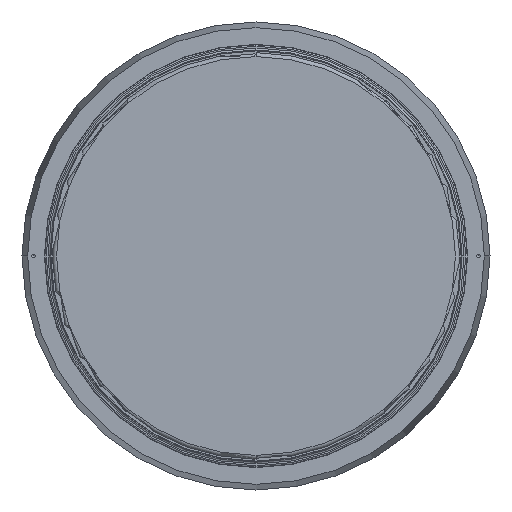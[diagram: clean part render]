
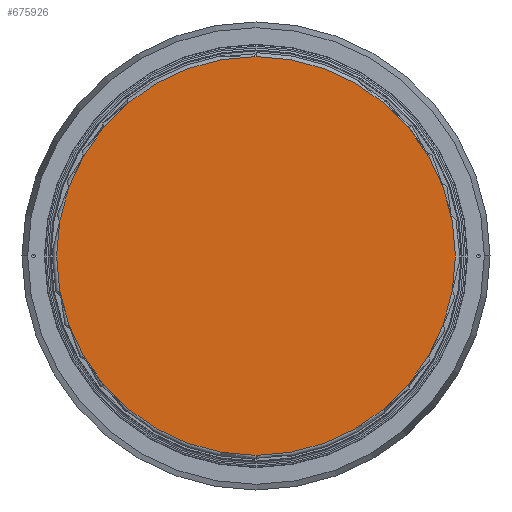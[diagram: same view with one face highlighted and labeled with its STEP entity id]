
A CAD part, front view. The second image highlights one B-rep face of the part: STEP entity #675926.
In plain terms, the highlighted planar face has unit normal (0, -1, 0).
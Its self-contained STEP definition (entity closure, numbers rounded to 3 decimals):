
#55592 = EDGE_LOOP ( 'NONE', ( #207553, #677157 ) ) ;
#95924 = VERTEX_POINT ( 'NONE', #649762 ) ;
#99719 = FACE_OUTER_BOUND ( 'NONE', #55592, .T. ) ;
#115957 = DIRECTION ( 'NONE',  ( 0., 1., 0. ) ) ;
#207553 = ORIENTED_EDGE ( 'NONE', *, *, #459573, .T. ) ;
#208841 = DIRECTION ( 'NONE',  ( 0., -1., 0. ) ) ;
#213249 = AXIS2_PLACEMENT_3D ( 'NONE', #538202, #208841, #593421 ) ;
#269261 = AXIS2_PLACEMENT_3D ( 'NONE', #445263, #115957, #500554 ) ;
#307456 = DIRECTION ( 'NONE',  ( 0., -1., 0. ) ) ;
#308082 = CIRCLE ( 'NONE', #213249, 524. ) ;
#407696 = CIRCLE ( 'NONE', #559861, 524. ) ;
#445263 = CARTESIAN_POINT ( 'NONE',  ( -524., 0., 500000. ) ) ;
#459573 = EDGE_CURVE ( 'NONE', #95924, #586314, #407696, .T. ) ;
#500554 = DIRECTION ( 'NONE',  ( -1., 0., 0. ) ) ;
#523225 = CARTESIAN_POINT ( 'NONE',  ( 0., 0., -524. ) ) ;
#538202 = CARTESIAN_POINT ( 'NONE',  ( 0., 0., 0. ) ) ;
#547649 = EDGE_CURVE ( 'NONE', #586314, #95924, #308082, .T. ) ;
#559861 = AXIS2_PLACEMENT_3D ( 'NONE', #636590, #307456, #691873 ) ;
#586314 = VERTEX_POINT ( 'NONE', #523225 ) ;
#593421 = DIRECTION ( 'NONE',  ( 0., 0., 1. ) ) ;
#608595 = PLANE ( 'NONE',  #269261 ) ;
#636590 = CARTESIAN_POINT ( 'NONE',  ( 0., 0., 0. ) ) ;
#649762 = CARTESIAN_POINT ( 'NONE',  ( 0., 0., 524. ) ) ;
#675926 = ADVANCED_FACE ( 'NONE', ( #99719 ), #608595, .F. ) ;
#677157 = ORIENTED_EDGE ( 'NONE', *, *, #547649, .T. ) ;
#691873 = DIRECTION ( 'NONE',  ( 0., 0., 1. ) ) ;
